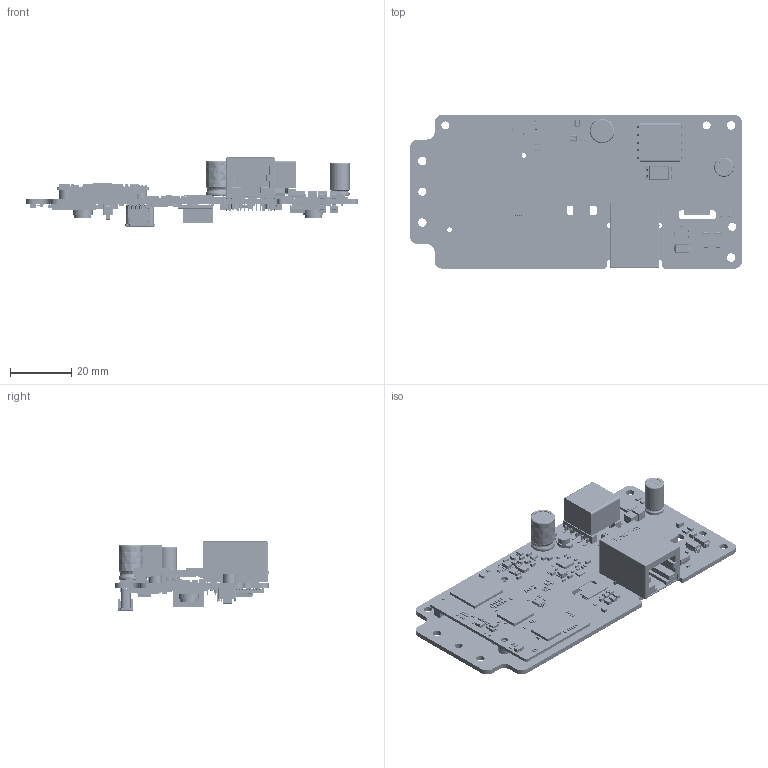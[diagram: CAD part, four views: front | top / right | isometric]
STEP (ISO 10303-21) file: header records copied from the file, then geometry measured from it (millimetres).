
FILE_DESCRIPTION(('Open CASCADE Model'),'2;1');
FILE_NAME('Open CASCADE Shape Model','2021-04-21T10:27:30',('Author'),( 'Open CASCADE'),'Open CASCADE STEP processor 6.8','Open CASCADE 6.8' ,'Unknown');
FILE_SCHEMA(('AUTOMOTIVE_DESIGN { 1 0 10303 214 1 1 1 1 }'));
Products named in the file (1): PCB
Bounding box: 108 x 50.16 x 22.45 mm (x, y, z)
Volume: 17310.1 mm3; surface area: 30286.1 mm2
Topology: 1417 solids, 3610 shells, 23801 faces, 64687 edges, 47361 vertices
Faces by surface type: plane 18894, cylinder 4016, bspline 420, sphere 160, torus 139, cone 113, extrusion 53, revolution 6
Full cylindrical faces by diameter (mm): 0.203 x4, 0.3 x2, 0.4 x1, 0.5 x2, 0.8 x4, 0.86 x2, 0.9 x14, 1.02 x4, 1.567 x2, 1.7 x2, 2.6 x6, 2.75 x4, 2.8 x2, 3 x2, 3.2 x2, 4.35 x2, 4.5 x2, 4.6 x1, 5.5 x2, 6.5 x2, 8.481 x1
Entity records: 790926 total; most frequent: CARTESIAN_POINT 161715, DIRECTION 118589, ORIENTED_EDGE 115946, EDGE_CURVE 63514, VECTOR 53335, LINE 53282, VERTEX_POINT 45233, AXIS2_PLACEMENT_3D 32624
